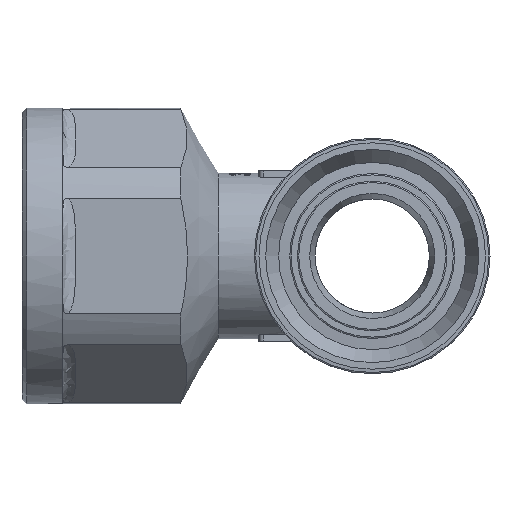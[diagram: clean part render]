
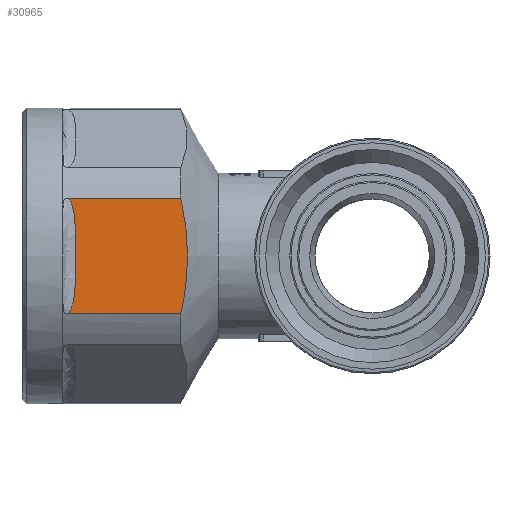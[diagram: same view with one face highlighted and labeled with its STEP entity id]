
A CAD part, left-side view. The second image highlights one B-rep face of the part: STEP entity #30965.
In plain terms, the highlighted planar face has unit normal (-1, 0, 0).
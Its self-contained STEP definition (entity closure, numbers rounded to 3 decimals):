
#243=(
BOUNDED_CURVE()
B_SPLINE_CURVE(2,(#40988,#40989,#40990),.UNSPECIFIED.,.F.,.F.)
B_SPLINE_CURVE_WITH_KNOTS((3,3),(0.642,1.285),
 .UNSPECIFIED.)
CURVE()
GEOMETRIC_REPRESENTATION_ITEM()
RATIONAL_B_SPLINE_CURVE((1.043,1.043,1.))
REPRESENTATION_ITEM('')
);
#244=(
BOUNDED_CURVE()
B_SPLINE_CURVE(2,(#40992,#40993,#40994),.UNSPECIFIED.,.F.,.F.)
B_SPLINE_CURVE_WITH_KNOTS((3,3),(0.,0.642),.UNSPECIFIED.)
CURVE()
GEOMETRIC_REPRESENTATION_ITEM()
RATIONAL_B_SPLINE_CURVE((1.,1.043,1.043))
REPRESENTATION_ITEM('')
);
#250=PLANE('',#32787);
#1826=FACE_OUTER_BOUND('',#3624,.T.);
#3624=EDGE_LOOP('',(#21011,#21012,#21013,#21014,#21015));
#6388=B_SPLINE_CURVE_WITH_KNOTS('',3,(#40973,#40974,#40975,#40976,#40977,
#40978,#40979,#40980,#40981,#40982,#40983),.UNSPECIFIED.,.F.,.F.,(4,1,1,
1,1,1,1,1,4),(-3.547,-3.477,-3.38,-3.186,
-2.993,-2.605,-2.412,-2.315,
-2.245),.UNSPECIFIED.);
#8223=LINE('',#40986,#10500);
#8224=LINE('',#40995,#10501);
#10500=VECTOR('',#34493,10.);
#10501=VECTOR('',#34494,10.);
#12800=VERTEX_POINT('',#40928);
#12802=VERTEX_POINT('',#40950);
#12803=VERTEX_POINT('',#40985);
#12804=VERTEX_POINT('',#40987);
#12805=VERTEX_POINT('',#40991);
#16104=EDGE_CURVE('',#12802,#12800,#6388,.T.);
#16105=EDGE_CURVE('',#12803,#12802,#8223,.T.);
#16106=EDGE_CURVE('',#12804,#12803,#243,.T.);
#16107=EDGE_CURVE('',#12805,#12804,#244,.T.);
#16108=EDGE_CURVE('',#12800,#12805,#8224,.T.);
#21011=ORIENTED_EDGE('',*,*,#16104,.F.);
#21012=ORIENTED_EDGE('',*,*,#16105,.F.);
#21013=ORIENTED_EDGE('',*,*,#16106,.F.);
#21014=ORIENTED_EDGE('',*,*,#16107,.F.);
#21015=ORIENTED_EDGE('',*,*,#16108,.F.);
#30965=ADVANCED_FACE('',(#1826),#250,.F.);
#32787=AXIS2_PLACEMENT_3D('',#40984,#34491,#34492);
#34491=DIRECTION('center_axis',(1.,0.,0.));
#34492=DIRECTION('ref_axis',(0.,0.,1.));
#34493=DIRECTION('',(0.,1.,0.));
#34494=DIRECTION('',(0.,-1.,0.));
#40928=CARTESIAN_POINT('',(-15.,33.539,6.379));
#40950=CARTESIAN_POINT('',(-15.,33.539,-6.379));
#40973=CARTESIAN_POINT('Ctrl Pts',(-15.,33.539,-6.379));
#40974=CARTESIAN_POINT('Ctrl Pts',(-15.,33.391,-6.2));
#40975=CARTESIAN_POINT('Ctrl Pts',(-15.,33.14,-5.687));
#40976=CARTESIAN_POINT('Ctrl Pts',(-15.,32.836,-4.523));
#40977=CARTESIAN_POINT('Ctrl Pts',(-15.,32.696,-2.903));
#40978=CARTESIAN_POINT('Ctrl Pts',(-15.,32.662,-0.323));
#40979=CARTESIAN_POINT('Ctrl Pts',(-15.,32.654,2.26));
#40980=CARTESIAN_POINT('Ctrl Pts',(-15.,32.833,4.53));
#40981=CARTESIAN_POINT('Ctrl Pts',(-15.,33.141,5.691));
#40982=CARTESIAN_POINT('Ctrl Pts',(-15.,33.392,6.201));
#40983=CARTESIAN_POINT('Ctrl Pts',(-15.,33.539,6.379));
#40984=CARTESIAN_POINT('Origin',(-15.,34.15,-8.66));
#40985=CARTESIAN_POINT('',(-15.,21.128,-6.379));
#40986=CARTESIAN_POINT('',(-15.,27.639,-6.379));
#40987=CARTESIAN_POINT('',(-15.,20.377,0.));
#40988=CARTESIAN_POINT('Ctrl Pts',(-15.,20.377,0.));
#40989=CARTESIAN_POINT('Ctrl Pts',(-15.,20.377,-3.057));
#40990=CARTESIAN_POINT('Ctrl Pts',(-15.,21.128,-6.379));
#40991=CARTESIAN_POINT('',(-15.,21.128,6.379));
#40992=CARTESIAN_POINT('Ctrl Pts',(-15.,21.128,6.379));
#40993=CARTESIAN_POINT('Ctrl Pts',(-15.,20.377,3.057));
#40994=CARTESIAN_POINT('Ctrl Pts',(-15.,20.377,0.));
#40995=CARTESIAN_POINT('',(-15.,27.639,6.379));
